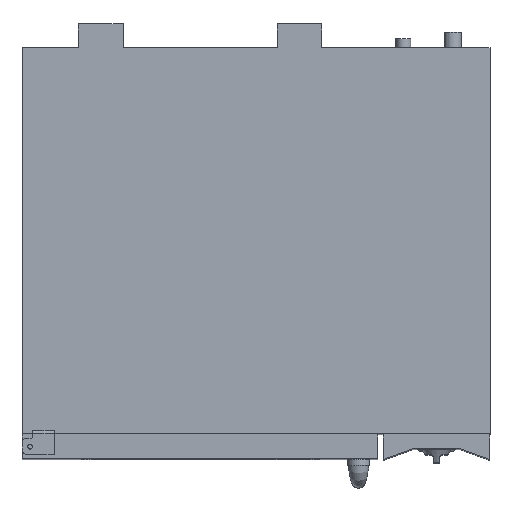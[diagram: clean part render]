
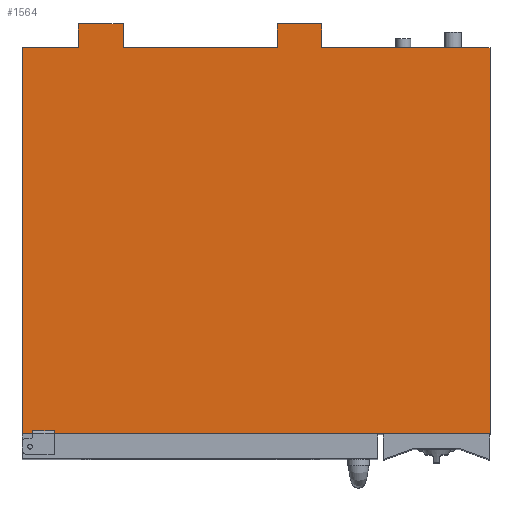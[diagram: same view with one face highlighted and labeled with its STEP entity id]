
A CAD part, top view. The second image highlights one B-rep face of the part: STEP entity #1564.
In plain terms, the highlighted planar face has unit normal (0, 0, 1).
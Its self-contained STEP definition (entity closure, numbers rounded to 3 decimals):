
#266=LINE('',#6557,#608);
#267=LINE('',#6560,#609);
#268=LINE('',#6562,#610);
#269=LINE('',#6564,#611);
#270=LINE('',#6566,#612);
#271=LINE('',#6568,#613);
#272=LINE('',#6570,#614);
#273=LINE('',#6572,#615);
#274=LINE('',#6574,#616);
#275=LINE('',#6576,#617);
#276=LINE('',#6578,#618);
#277=LINE('',#6580,#619);
#278=LINE('',#6582,#620);
#279=LINE('',#6584,#621);
#280=LINE('',#6586,#622);
#281=LINE('',#6588,#623);
#608=VECTOR('',#5098,1.);
#609=VECTOR('',#5099,1.);
#610=VECTOR('',#5100,1.);
#611=VECTOR('',#5101,1.);
#612=VECTOR('',#5102,1.);
#613=VECTOR('',#5103,1.);
#614=VECTOR('',#5104,1.);
#615=VECTOR('',#5105,1.);
#616=VECTOR('',#5106,1.);
#617=VECTOR('',#5107,1.);
#618=VECTOR('',#5108,1.);
#619=VECTOR('',#5109,1.);
#620=VECTOR('',#5110,1.);
#621=VECTOR('',#5111,1.);
#622=VECTOR('',#5112,1.);
#623=VECTOR('',#5113,1.);
#1147=PLANE('',#4330);
#1340=FACE_OUTER_BOUND('',#1931,.T.);
#1564=ADVANCED_FACE('',(#1340),#1147,.F.);
#1931=EDGE_LOOP('',(#2637,#2638,#2639,#2640,#2641,#2642,#2643,#2644,#2645,
#2646,#2647,#2648,#2649,#2650,#2651,#2652));
#2637=ORIENTED_EDGE('',*,*,#3748,.F.);
#2638=ORIENTED_EDGE('',*,*,#3749,.T.);
#2639=ORIENTED_EDGE('',*,*,#3750,.T.);
#2640=ORIENTED_EDGE('',*,*,#3751,.F.);
#2641=ORIENTED_EDGE('',*,*,#3752,.F.);
#2642=ORIENTED_EDGE('',*,*,#3753,.F.);
#2643=ORIENTED_EDGE('',*,*,#3754,.T.);
#2644=ORIENTED_EDGE('',*,*,#3755,.F.);
#2645=ORIENTED_EDGE('',*,*,#3756,.F.);
#2646=ORIENTED_EDGE('',*,*,#3757,.F.);
#2647=ORIENTED_EDGE('',*,*,#3758,.T.);
#2648=ORIENTED_EDGE('',*,*,#3759,.F.);
#2649=ORIENTED_EDGE('',*,*,#3760,.F.);
#2650=ORIENTED_EDGE('',*,*,#3761,.T.);
#2651=ORIENTED_EDGE('',*,*,#3762,.F.);
#2652=ORIENTED_EDGE('',*,*,#3763,.F.);
#3301=VERTEX_POINT('',#6558);
#3302=VERTEX_POINT('',#6559);
#3303=VERTEX_POINT('',#6561);
#3304=VERTEX_POINT('',#6563);
#3305=VERTEX_POINT('',#6565);
#3306=VERTEX_POINT('',#6567);
#3307=VERTEX_POINT('',#6569);
#3308=VERTEX_POINT('',#6571);
#3309=VERTEX_POINT('',#6573);
#3310=VERTEX_POINT('',#6575);
#3311=VERTEX_POINT('',#6577);
#3312=VERTEX_POINT('',#6579);
#3313=VERTEX_POINT('',#6581);
#3314=VERTEX_POINT('',#6583);
#3315=VERTEX_POINT('',#6585);
#3316=VERTEX_POINT('',#6587);
#3748=EDGE_CURVE('',#3301,#3302,#266,.T.);
#3749=EDGE_CURVE('',#3301,#3303,#267,.T.);
#3750=EDGE_CURVE('',#3303,#3304,#268,.T.);
#3751=EDGE_CURVE('',#3305,#3304,#269,.T.);
#3752=EDGE_CURVE('',#3306,#3305,#270,.T.);
#3753=EDGE_CURVE('',#3307,#3306,#271,.T.);
#3754=EDGE_CURVE('',#3307,#3308,#272,.T.);
#3755=EDGE_CURVE('',#3309,#3308,#273,.T.);
#3756=EDGE_CURVE('',#3310,#3309,#274,.T.);
#3757=EDGE_CURVE('',#3311,#3310,#275,.T.);
#3758=EDGE_CURVE('',#3311,#3312,#276,.T.);
#3759=EDGE_CURVE('',#3313,#3312,#277,.T.);
#3760=EDGE_CURVE('',#3314,#3313,#278,.T.);
#3761=EDGE_CURVE('',#3314,#3315,#279,.T.);
#3762=EDGE_CURVE('',#3316,#3315,#280,.T.);
#3763=EDGE_CURVE('',#3302,#3316,#281,.T.);
#4330=AXIS2_PLACEMENT_3D('',#6589,#5114,#5115);
#5098=DIRECTION('',(0.,1.,0.));
#5099=DIRECTION('',(1.,0.,0.));
#5100=DIRECTION('',(0.,1.,0.));
#5101=DIRECTION('',(1.,0.,0.));
#5102=DIRECTION('',(0.,-1.,0.));
#5103=DIRECTION('',(1.,0.,0.));
#5104=DIRECTION('',(0.,-1.,0.));
#5105=DIRECTION('',(1.,0.,0.));
#5106=DIRECTION('',(0.,-1.,0.));
#5107=DIRECTION('',(1.,0.,0.));
#5108=DIRECTION('',(0.,-1.,0.));
#5109=DIRECTION('',(1.,0.,0.));
#5110=DIRECTION('',(0.,1.,0.));
#5111=DIRECTION('',(1.,0.,0.));
#5112=DIRECTION('',(0.,-1.,0.));
#5113=DIRECTION('',(-1.,0.,0.));
#5114=DIRECTION('',(0.,0.,-1.));
#5115=DIRECTION('',(1.,0.,0.));
#6557=CARTESIAN_POINT('',(-19.3,8314.1,527.));
#6558=CARTESIAN_POINT('',(-19.3,8314.1,527.));
#6559=CARTESIAN_POINT('',(-19.3,8319.8,527.));
#6560=CARTESIAN_POINT('',(-79.3,8314.1,527.));
#6561=CARTESIAN_POINT('',(792.7,8314.1,527.));
#6562=CARTESIAN_POINT('',(792.7,8314.1,527.));
#6563=CARTESIAN_POINT('',(792.7,9033.7,527.));
#6564=CARTESIAN_POINT('',(-79.3,9033.7,527.));
#6565=CARTESIAN_POINT('',(479.57,9033.7,527.));
#6566=CARTESIAN_POINT('',(479.57,9078.3,527.));
#6567=CARTESIAN_POINT('',(479.57,9078.3,527.));
#6568=CARTESIAN_POINT('',(396.37,9078.3,527.));
#6569=CARTESIAN_POINT('',(396.37,9078.3,527.));
#6570=CARTESIAN_POINT('',(396.37,9078.3,527.));
#6571=CARTESIAN_POINT('',(396.37,9033.7,527.));
#6572=CARTESIAN_POINT('',(-79.3,9033.7,527.));
#6573=CARTESIAN_POINT('',(109.17,9033.7,527.));
#6574=CARTESIAN_POINT('',(109.17,9078.3,527.));
#6575=CARTESIAN_POINT('',(109.17,9078.3,527.));
#6576=CARTESIAN_POINT('',(25.97,9078.3,527.));
#6577=CARTESIAN_POINT('',(25.97,9078.3,527.));
#6578=CARTESIAN_POINT('',(25.97,9078.3,527.));
#6579=CARTESIAN_POINT('',(25.97,9033.7,527.));
#6580=CARTESIAN_POINT('',(-79.3,9033.7,527.));
#6581=CARTESIAN_POINT('',(-79.3,9033.7,527.));
#6582=CARTESIAN_POINT('',(-79.3,8314.1,527.));
#6583=CARTESIAN_POINT('',(-79.3,8314.1,527.));
#6584=CARTESIAN_POINT('',(-79.3,8314.1,527.));
#6585=CARTESIAN_POINT('',(-59.3,8314.1,527.));
#6586=CARTESIAN_POINT('',(-59.3,8319.8,527.));
#6587=CARTESIAN_POINT('',(-59.3,8319.8,527.));
#6588=CARTESIAN_POINT('',(-19.3,8319.8,527.));
#6589=CARTESIAN_POINT('',(-79.3,8314.1,527.));
